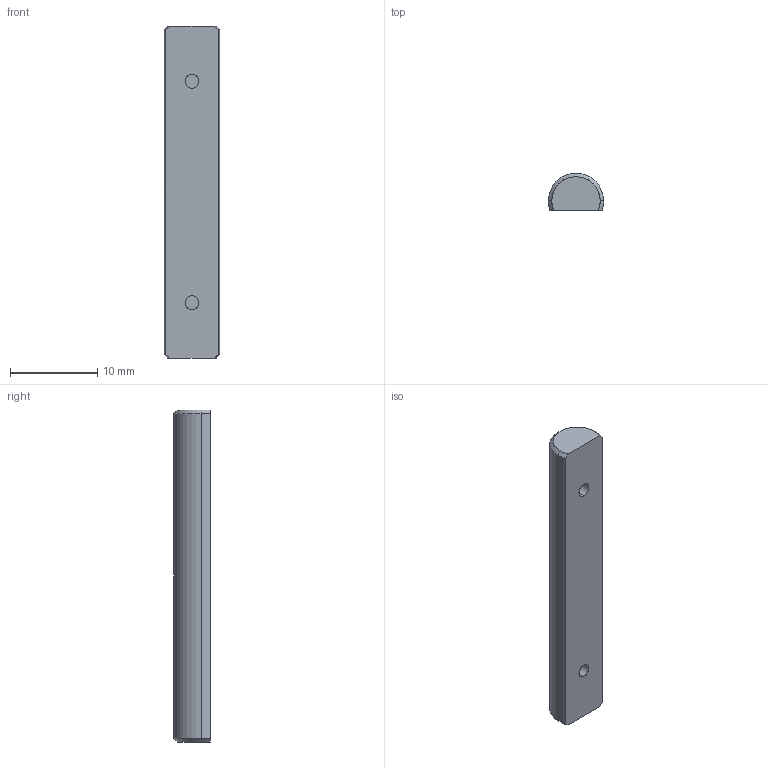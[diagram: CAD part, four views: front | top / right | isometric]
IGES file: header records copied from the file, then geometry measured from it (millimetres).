
Start section: SolidWorks IGES file using analytic representation for surfaces
Global section: file name: D:\Solid_parts\MECHeDESIGN\Bal-Tec\Catalog 105-A\Distribution\IGES\250-TC-BH.IGS; native system: SolidWorks 2005 by SolidWorks Corporation; preprocessor: SolidWorks 2005 by SolidWorks Corporation; author: rvillegas; date: 061205.185947; units: inch
Bounding box: 6.35 x 4.24 x 38.1 mm (x, y, z)
Surface area: 745.2 mm2 (no closed solid volume)
Topology: 0 solids, 0 shells, 18 faces, 166 edges, 166 vertices
Faces by surface type: revolution 13, bspline 5
